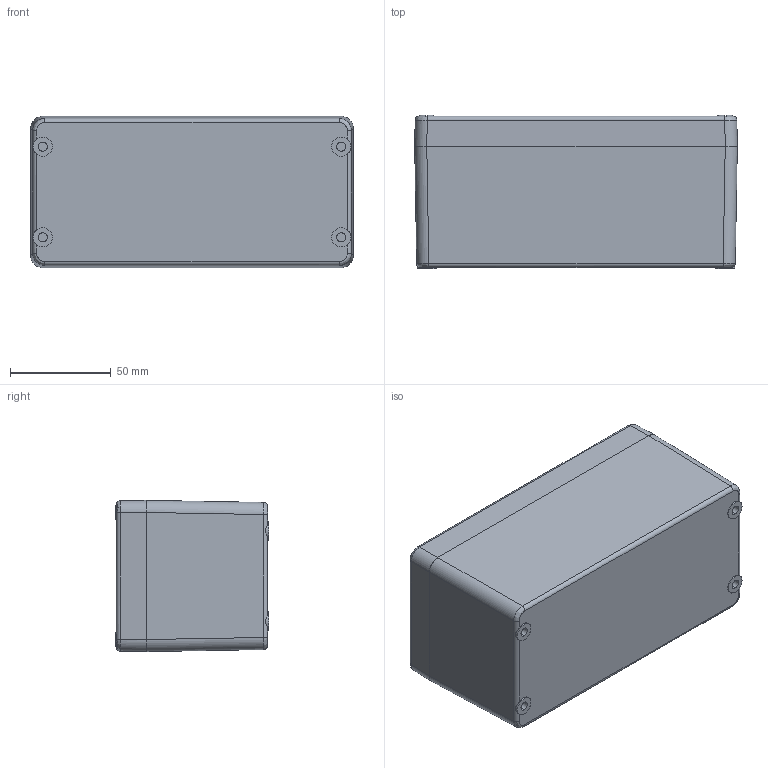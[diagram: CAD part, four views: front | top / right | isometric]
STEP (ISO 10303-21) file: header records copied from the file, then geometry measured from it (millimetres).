
FILE_DESCRIPTION (( 'STEP AP203' ), '1' );
FILE_NAME ('exe1607575.STEP', '2013-06-05T17:39:30', ( 'User' ), ( 'Pentair Inc' ), 'SwSTEP 2.0', 'SolidWorks 2010', '' );
FILE_SCHEMA (( 'CONFIG_CONTROL_DESIGN' ));
Length unit declared in the file: inch
Products named in the file (4): 89092829; exe1607575; 89092781; 89092764
Assembly tree (6 placements, depth 2):
  exe1607575
    89092764
    89092829  x4
    89092781
Bounding box: 160 x 75.9 x 75 mm (x, y, z)
Volume: 86452.7 mm3; surface area: 132580.2 mm2
Topology: 10 solids, 17 shells, 559 faces, 1422 edges, 902 vertices
Faces by surface type: plane 231, cylinder 212, cone 72, torus 28, bspline 16
Entity records: 13870 total; most frequent: CARTESIAN_POINT 3642, DIRECTION 2115, ORIENTED_EDGE 1986, EDGE_CURVE 1005, AXIS2_PLACEMENT_3D 799, VERTEX_POINT 644, LINE 517, VECTOR 517
